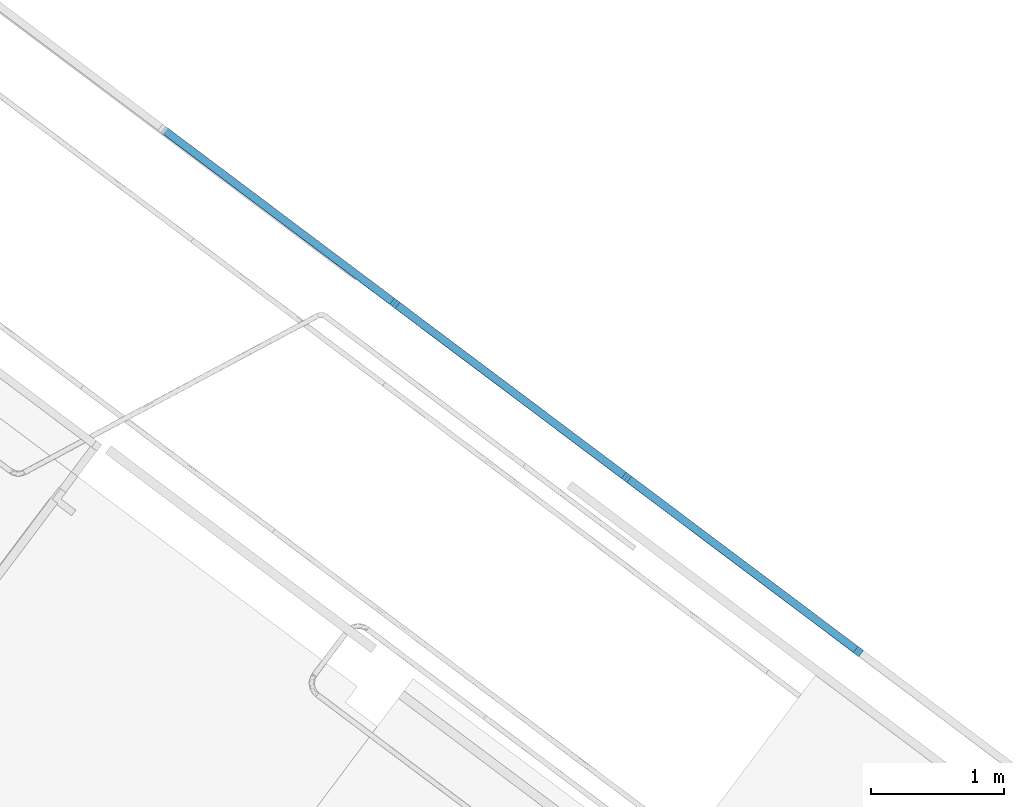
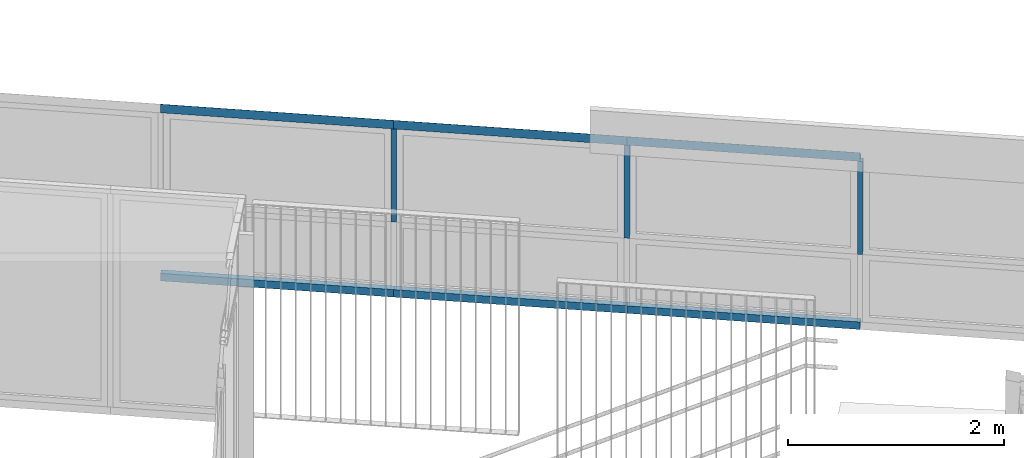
# One storey, part 72 of 243: 9 members, 1 element without a shape of its own.
"""IFC2X3 building model written with IfcOpenShell, lengths in metres."""

from ifc_helpers import new_model, entity, si_unit, converted_unit, derived_unit, direction, frame, frame_2d, origin, origin_2d_with_axis, place, context, subcontext, project, spatial, polyline, rectangle, outline, extrude, source, transform, mapped, material, type_object, type_shapes, element, aggregate, save


model = new_model("IFC2X3")

# Units and contexts
model_context = context("Model", 3, precision=1e-05, world=origin(), true_north=direction((6.123031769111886e-17, 1.0)))
body_context = subcontext(model_context, "Body", "Model", "MODEL_VIEW")
ifc_project = project(units=[si_unit("LENGTHUNIT", "METRE"), si_unit("AREAUNIT", "SQUARE_METRE"), si_unit("VOLUMEUNIT", "CUBIC_METRE"), converted_unit("PLANEANGLEUNIT", "DEGREE", entity("IfcRatioMeasure", 0.017453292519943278), si_unit("PLANEANGLEUNIT", "RADIAN"), dimensions=[0, 0, 0, 0, 0, 0, 0]), si_unit("MASSUNIT", "GRAM", prefix="KILO"), derived_unit("MASSDENSITYUNIT", [(si_unit("MASSUNIT", "GRAM", prefix="KILO"), 1), (si_unit("LENGTHUNIT", "METRE"), -3)]), derived_unit("IONCONCENTRATIONUNIT", [(si_unit("MASSUNIT", "GRAM", prefix="KILO"), 1), (si_unit("LENGTHUNIT", "METRE"), -3)]), derived_unit("MOMENTOFINERTIAUNIT", [(si_unit("LENGTHUNIT", "METRE"), 4)]), si_unit("TIMEUNIT", "SECOND"), si_unit("FREQUENCYUNIT", "HERTZ"), si_unit("THERMODYNAMICTEMPERATUREUNIT", "DEGREE_CELSIUS"), derived_unit("THERMALTRANSMITTANCEUNIT", [(si_unit("MASSUNIT", "GRAM", prefix="KILO"), 1), (si_unit("THERMODYNAMICTEMPERATUREUNIT", "KELVIN"), -1), (si_unit("TIMEUNIT", "SECOND"), -3)]), derived_unit("THERMALCONDUCTANCEUNIT", [(si_unit("MASSUNIT", "GRAM", prefix="KILO"), 1), (si_unit("THERMODYNAMICTEMPERATUREUNIT", "KELVIN"), -1), (si_unit("TIMEUNIT", "SECOND"), -3), (si_unit("LENGTHUNIT", "METRE"), 1)]), derived_unit("VOLUMETRICFLOWRATEUNIT", [(si_unit("LENGTHUNIT", "METRE"), 3), (si_unit("TIMEUNIT", "SECOND"), -1)]), derived_unit("MASSFLOWRATEUNIT", [(si_unit("MASSUNIT", "GRAM", prefix="KILO"), 1), (si_unit("TIMEUNIT", "SECOND"), -1)]), derived_unit("ROTATIONALFREQUENCYUNIT", [(si_unit("TIMEUNIT", "SECOND"), -1)]), si_unit("ELECTRICCURRENTUNIT", "AMPERE"), si_unit("ELECTRICVOLTAGEUNIT", "VOLT"), si_unit("POWERUNIT", "WATT"), si_unit("FORCEUNIT", "NEWTON", prefix="KILO"), si_unit("ILLUMINANCEUNIT", "LUX"), si_unit("LUMINOUSFLUXUNIT", "LUMEN"), si_unit("LUMINOUSINTENSITYUNIT", "CANDELA"), derived_unit("USERDEFINED", [(si_unit("MASSUNIT", "GRAM", prefix="KILO"), -1), (si_unit("LENGTHUNIT", "METRE"), -2), (si_unit("TIMEUNIT", "SECOND"), 3), (si_unit("LUMINOUSFLUXUNIT", "LUMEN"), 1)]), derived_unit("USERDEFINED", [(si_unit("MASSUNIT", "GRAM", prefix="KILO"), 1), (si_unit("TIMEUNIT", "SECOND"), -3), (si_unit("LENGTHUNIT", "METRE"), 3), (si_unit("ELECTRICCURRENTUNIT", "AMPERE"), -2)]), derived_unit("SOUNDPOWERUNIT", [(si_unit("MASSUNIT", "GRAM", prefix="KILO"), 1), (si_unit("TIMEUNIT", "SECOND"), -3), (si_unit("LENGTHUNIT", "METRE"), 2)]), derived_unit("SOUNDPRESSUREUNIT", [(si_unit("MASSUNIT", "GRAM", prefix="KILO"), 1), (si_unit("LENGTHUNIT", "METRE"), -1), (si_unit("TIMEUNIT", "SECOND"), -2)]), derived_unit("LINEARVELOCITYUNIT", [(si_unit("LENGTHUNIT", "METRE"), 1), (si_unit("TIMEUNIT", "SECOND"), -1)]), si_unit("PRESSUREUNIT", "PASCAL"), derived_unit("USERDEFINED", [(si_unit("MASSUNIT", "GRAM", prefix="KILO"), 1), (si_unit("LENGTHUNIT", "METRE"), -2), (si_unit("TIMEUNIT", "SECOND"), -2)]), derived_unit("LINEARFORCEUNIT", [(si_unit("MASSUNIT", "GRAM", prefix="KILO"), 1), (si_unit("TIMEUNIT", "SECOND"), -2)]), derived_unit("PLANARFORCEUNIT", [(si_unit("MASSUNIT", "GRAM", prefix="KILO"), 1), (si_unit("LENGTHUNIT", "METRE"), -1), (si_unit("TIMEUNIT", "SECOND"), -2)]), derived_unit("SPECIFICHEATCAPACITYUNIT", [(si_unit("THERMODYNAMICTEMPERATUREUNIT", "KELVIN"), -1), (si_unit("LENGTHUNIT", "METRE"), 2), (si_unit("TIMEUNIT", "SECOND"), -2)]), derived_unit("HEATINGVALUEUNIT", [(si_unit("LENGTHUNIT", "METRE"), 2), (si_unit("TIMEUNIT", "SECOND"), -2)]), derived_unit("VAPORPERMEABILITYUNIT", [(si_unit("LENGTHUNIT", "METRE"), -1), (si_unit("TIMEUNIT", "SECOND"), 1)]), derived_unit("DYNAMICVISCOSITYUNIT", [(si_unit("MASSUNIT", "GRAM", prefix="KILO"), 1), (si_unit("TIMEUNIT", "SECOND"), -1), (si_unit("LENGTHUNIT", "METRE"), -1)]), derived_unit("THERMALEXPANSIONCOEFFICIENTUNIT", [(si_unit("THERMODYNAMICTEMPERATUREUNIT", "KELVIN"), -1)]), derived_unit("MODULUSOFELASTICITYUNIT", [(si_unit("MASSUNIT", "GRAM", prefix="KILO"), 1), (si_unit("LENGTHUNIT", "METRE"), -1), (si_unit("TIMEUNIT", "SECOND"), -2)]), derived_unit("ISOTHERMALMOISTURECAPACITYUNIT", [(si_unit("LENGTHUNIT", "METRE"), 3), (si_unit("MASSUNIT", "GRAM", prefix="KILO"), -1)]), derived_unit("MOISTUREDIFFUSIVITYUNIT", [(si_unit("TIMEUNIT", "SECOND"), -1), (si_unit("LENGTHUNIT", "METRE"), 2)])], contexts=[model_context])

# Site, building, storey
site_placement = place(None, frame((0.0, 0.0, 235.0), z_axis=(0.0, 0.0, 1.0), x_axis=(-0.7996477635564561, 0.6004693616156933, 0.0)))
site = spatial("IfcSite", under=ifc_project, at=site_placement, Name="Default", CompositionType="ELEMENT")
building_placement = place(site_placement, origin())
building = spatial("IfcBuilding", under=site, at=building_placement, CompositionType="ELEMENT")
storey_placement = place(building_placement, origin())
storey = spatial("IfcBuildingStorey", under=building, at=storey_placement, Name="P0- Escola", CompositionType="ELEMENT", Elevation=0.0)

# Curtain wall, members
curtain_wall_type = type_object("IfcCurtainWallType", Name="Muro cortina:MC- EXT- MC9", PredefinedType="NOTDEFINED")
curtain_wall_placement = place(storey_placement, origin())
curtain_wall = element("IfcCurtainWall", 1, at=curtain_wall_placement, inside=storey, type_object=curtain_wall_type, Name="Muro cortina:MC- EXT- MC9", ObjectType="Muro cortina:MC- EXT- MC9")
ifc_material = material(Name="_Alumini- T1- Perfil")
member_type_1 = type_object("IfcMemberType", Name="Montante rectangular:MC- Alu- 52x80 cm- Fa pista- inferior", PredefinedType="MULLION", material=ifc_material)
shared_shape_1 = source(origin(), body_context, "Body", "SweptSolid", [
    extrude(rectangle(XDim=0.06000000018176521, YDim=0.085, at=origin_2d_with_axis()), frame((-0.0425, -0.030000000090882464, -2.1769999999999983), z_axis=(0.0, 0.0, 1.0), x_axis=(0.0, -1.0, 0.0)), (0.0, 0.0, 1.0), 2.1769999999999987),
])
type_shapes(member_type_1, [shared_shape_1])
member_1_placement = place(curtain_wall_placement, frame((25.794143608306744, -42.34019175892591, 0.6000000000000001), z_axis=(-1.0, 0.0, 0.0), x_axis=(0.0, 0.0, -1.0)))
member_1 = element("IfcMember", 2, at=member_1_placement, type_object=member_type_1, material=ifc_material, Name="Montante rectangular:MC- Alu- 52x80 cm- Fa pista- inferior", ObjectType="Montante rectangular:MC- Alu- 52x80 cm- Fa pista- inferior", context=body_context, shape_type="MappedRepresentation", body=[
    mapped(shared_shape_1, transform((0.0, 0.0, 0.0), scale=1.0)),
])
member_2_placement = place(curtain_wall_placement, frame((27.971143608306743, -42.34019175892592, 0.6000000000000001), z_axis=(-1.0, 0.0, 0.0), x_axis=(0.0, 0.0, -1.0)))
member_2 = element("IfcMember", 3, at=member_2_placement, type_object=member_type_1, material=ifc_material, Name="Montante rectangular:MC- Alu- 52x80 cm- Fa pista- inferior", ObjectType="Montante rectangular:MC- Alu- 52x80 cm- Fa pista- inferior", context=body_context, shape_type="MappedRepresentation", body=[
    mapped(shared_shape_1, transform((0.0, 0.0, 0.0), scale=1.0)),
])
member_3_placement = place(curtain_wall_placement, frame((30.148143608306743, -42.340191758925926, 0.6000000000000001), z_axis=(-1.0, 0.0, 0.0), x_axis=(0.0, 0.0, -1.0)))
member_3 = element("IfcMember", 4, at=member_3_placement, type_object=member_type_1, material=ifc_material, Name="Montante rectangular:MC- Alu- 52x80 cm- Fa pista- inferior", ObjectType="Montante rectangular:MC- Alu- 52x80 cm- Fa pista- inferior", context=body_context, shape_type="MappedRepresentation", body=[
    mapped(shared_shape_1, transform((0.0, 0.0, 0.0), scale=1.0)),
])
member_type_2 = type_object("IfcMemberType", Name="Montante rectangular:MC- Alu- 140x52,5 cm- Fa pista- Superior", PredefinedType="MULLION", material=ifc_material)
shared_shape_2 = source(origin(), body_context, "Body", "SweptSolid", [
    extrude(outline(polyline([(-0.03933333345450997, -0.04916666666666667), (0.02066666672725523, -0.04916666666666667), (0.020666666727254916, 0.048333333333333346), (0.018666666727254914, 0.04833333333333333), (0.018666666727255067, 0.00083333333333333), (-0.03933333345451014, 0.00083333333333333), (-0.03933333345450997, -0.04916666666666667)])), frame((-0.048333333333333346, -0.03933333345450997, -2.176999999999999), z_axis=(0.0, 0.0, 1.0), x_axis=(0.0, -1.0, 0.0)), (0.0, 0.0, 1.0), 2.1769999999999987),
])
type_shapes(member_type_2, [shared_shape_2])
member_4_placement = place(curtain_wall_placement, frame((27.971143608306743, -42.34019175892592, 2.6000000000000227), z_axis=(1.0, 0.0, 0.0), x_axis=(0.0, 0.0, 1.0)))
member_4 = element("IfcMember", 5, at=member_4_placement, type_object=member_type_2, material=ifc_material, Name="Montante rectangular:MC- Alu- 140x52,5 cm- Fa pista- Superior", ObjectType="Montante rectangular:MC- Alu- 140x52,5 cm- Fa pista- Superior", context=body_context, shape_type="MappedRepresentation", body=[
    mapped(shared_shape_2, transform((0.0, 0.0, 0.0), scale=1.0)),
])
member_5_placement = place(curtain_wall_placement, frame((30.148143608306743, -42.340191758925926, 2.6000000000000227), z_axis=(1.0, 0.0, 0.0), x_axis=(0.0, 0.0, 1.0)))
member_5 = element("IfcMember", 6, at=member_5_placement, type_object=member_type_2, material=ifc_material, Name="Montante rectangular:MC- Alu- 140x52,5 cm- Fa pista- Superior", ObjectType="Montante rectangular:MC- Alu- 140x52,5 cm- Fa pista- Superior", context=body_context, shape_type="MappedRepresentation", body=[
    mapped(shared_shape_2, transform((0.0, 0.0, 0.0), scale=1.0)),
])
member_6_placement = place(curtain_wall_placement, frame((32.32514360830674, -42.340191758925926, 2.6000000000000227), z_axis=(1.0, 0.0, 0.0), x_axis=(0.0, 0.0, 1.0)))
member_6 = element("IfcMember", 7, at=member_6_placement, type_object=member_type_2, material=ifc_material, Name="Montante rectangular:MC- Alu- 140x52,5 cm- Fa pista- Superior", ObjectType="Montante rectangular:MC- Alu- 140x52,5 cm- Fa pista- Superior", context=body_context, shape_type="MappedRepresentation", body=[
    mapped(shared_shape_2, transform((0.0, 0.0, 0.0), scale=1.0)),
])
member_type_3 = type_object("IfcMemberType", Name="Montante rectangular:MC- Alu- 50x60 cm- Fa pista- Centre", PredefinedType="MULLION", material=ifc_material)
shared_shape_3 = source(origin(), body_context, "Body", "SweptSolid", [
    extrude(rectangle(XDim=0.0600000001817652, YDim=0.05, at=frame_2d((8.673617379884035e-18, 0.0), x_axis=(1.0, 0.0))), frame((0.0, -0.030000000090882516, -1.052500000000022), z_axis=(0.0, 0.0, 1.0), x_axis=(0.0, -1.0, 0.0)), (0.0, 0.0, 1.0), 1.052500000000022),
])
type_shapes(member_type_3, [shared_shape_3])
member_7_placement = place(curtain_wall_placement, frame((25.794143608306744, -42.34019175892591, 1.4500000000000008), z_axis=(0.0, 0.0, -1.0), x_axis=(1.0, 0.0, 0.0)))
member_7 = element("IfcMember", 8, at=member_7_placement, type_object=member_type_3, material=ifc_material, Name="Montante rectangular:MC- Alu- 50x60 cm- Fa pista- Centre", ObjectType="Montante rectangular:MC- Alu- 50x60 cm- Fa pista- Centre", context=body_context, shape_type="MappedRepresentation", body=[
    mapped(shared_shape_3, transform((0.0, 0.0, 0.0), scale=1.0)),
])
member_8_placement = place(curtain_wall_placement, frame((27.971143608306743, -42.34019175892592, 1.4500000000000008), z_axis=(0.0, 0.0, -1.0), x_axis=(1.0, 0.0, 0.0)))
member_8 = element("IfcMember", 9, at=member_8_placement, type_object=member_type_3, material=ifc_material, Name="Montante rectangular:MC- Alu- 50x60 cm- Fa pista- Centre", ObjectType="Montante rectangular:MC- Alu- 50x60 cm- Fa pista- Centre", context=body_context, shape_type="MappedRepresentation", body=[
    mapped(shared_shape_3, transform((0.0, 0.0, 0.0), scale=1.0)),
])
member_9_placement = place(curtain_wall_placement, frame((30.148143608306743, -42.340191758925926, 1.4500000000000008), z_axis=(0.0, 0.0, -1.0), x_axis=(1.0, 0.0, 0.0)))
member_9 = element("IfcMember", 10, at=member_9_placement, type_object=member_type_3, material=ifc_material, Name="Montante rectangular:MC- Alu- 50x60 cm- Fa pista- Centre", ObjectType="Montante rectangular:MC- Alu- 50x60 cm- Fa pista- Centre", context=body_context, shape_type="MappedRepresentation", body=[
    mapped(shared_shape_3, transform((0.0, 0.0, 0.0), scale=1.0)),
])
aggregate(curtain_wall, [member_1, member_4, member_2, member_5, member_3, member_6, member_7, member_8, member_9])

save(model, "model.ifc")
